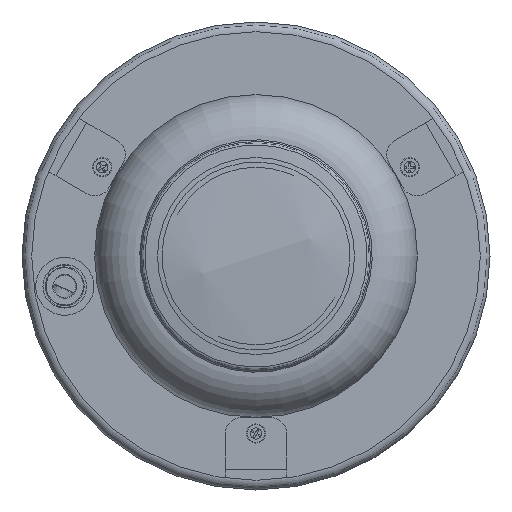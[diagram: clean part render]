
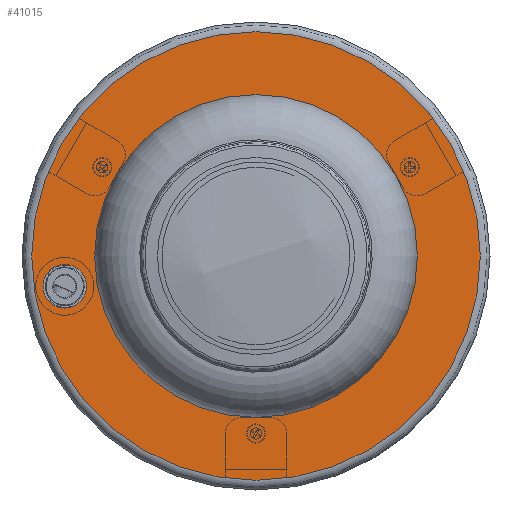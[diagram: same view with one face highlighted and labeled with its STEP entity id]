
A CAD part, front view. The second image highlights one B-rep face of the part: STEP entity #41015.
In plain terms, the highlighted planar face has unit normal (0, -1, 0).
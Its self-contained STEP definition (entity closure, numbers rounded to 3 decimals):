
#2706=FACE_BOUND('',#8053,.T.);
#2707=FACE_BOUND('',#8054,.T.);
#2708=FACE_BOUND('',#8055,.T.);
#2709=FACE_BOUND('',#8056,.T.);
#3661=PLANE('',#45880);
#5613=FACE_OUTER_BOUND('',#8052,.T.);
#8052=EDGE_LOOP('',(#35522));
#8053=EDGE_LOOP('',(#35523));
#8054=EDGE_LOOP('',(#35524));
#8055=EDGE_LOOP('',(#35525));
#8056=EDGE_LOOP('',(#35526));
#9943=CIRCLE('',#45863,1.485);
#9944=CIRCLE('',#45865,6.75);
#9946=CIRCLE('',#45868,2.5);
#9948=CIRCLE('',#45871,3.9);
#9953=CIRCLE('',#45878,69.5);
#20225=VERTEX_POINT('',#71059);
#20226=VERTEX_POINT('',#71063);
#20228=VERTEX_POINT('',#71069);
#20230=VERTEX_POINT('',#71075);
#20235=VERTEX_POINT('',#71089);
#25511=EDGE_CURVE('',#20225,#20225,#9943,.T.);
#25512=EDGE_CURVE('',#20226,#20226,#9944,.T.);
#25515=EDGE_CURVE('',#20228,#20228,#9946,.T.);
#25518=EDGE_CURVE('',#20230,#20230,#9948,.T.);
#25525=EDGE_CURVE('',#20235,#20235,#9953,.T.);
#35522=ORIENTED_EDGE('',*,*,#25525,.T.);
#35523=ORIENTED_EDGE('',*,*,#25511,.T.);
#35524=ORIENTED_EDGE('',*,*,#25512,.T.);
#35525=ORIENTED_EDGE('',*,*,#25515,.T.);
#35526=ORIENTED_EDGE('',*,*,#25518,.T.);
#41015=ADVANCED_FACE('',(#5613,#2706,#2707,#2708,#2709),#3661,.T.);
#45863=AXIS2_PLACEMENT_3D('',#71061,#55792,#55793);
#45865=AXIS2_PLACEMENT_3D('',#71064,#55796,#55797);
#45868=AXIS2_PLACEMENT_3D('',#71070,#55803,#55804);
#45871=AXIS2_PLACEMENT_3D('',#71076,#55810,#55811);
#45878=AXIS2_PLACEMENT_3D('',#71090,#55826,#55827);
#45880=AXIS2_PLACEMENT_3D('',#71092,#55830,#55831);
#55792=DIRECTION('center_axis',(0.,1.,0.));
#55793=DIRECTION('ref_axis',(1.,0.,0.));
#55796=DIRECTION('center_axis',(0.,1.,0.));
#55797=DIRECTION('ref_axis',(1.,0.,0.));
#55803=DIRECTION('center_axis',(0.,1.,0.));
#55804=DIRECTION('ref_axis',(1.,0.,0.));
#55810=DIRECTION('center_axis',(0.,1.,0.));
#55811=DIRECTION('ref_axis',(1.,0.,0.));
#55826=DIRECTION('center_axis',(0.,-1.,0.));
#55827=DIRECTION('ref_axis',(1.,0.,0.));
#55830=DIRECTION('center_axis',(0.,-1.,0.));
#55831=DIRECTION('ref_axis',(0.,0.,-1.));
#71059=CARTESIAN_POINT('',(33.589,0.,-20.25));
#71061=CARTESIAN_POINT('Origin',(35.074,0.,-20.25));
#71063=CARTESIAN_POINT('',(-62.765,0.,21.502));
#71064=CARTESIAN_POINT('Origin',(-56.015,0.,
21.502));
#71069=CARTESIAN_POINT('',(15.,0.,0.));
#71070=CARTESIAN_POINT('Origin',(17.5,0.,0.));
#71075=CARTESIAN_POINT('',(-3.9,0.,0.));
#71076=CARTESIAN_POINT('Origin',(0.,0.,0.));
#71089=CARTESIAN_POINT('',(0.,0.,69.5));
#71090=CARTESIAN_POINT('Origin',(0.,0.,
0.));
#71092=CARTESIAN_POINT('Origin',(0.,0.,0.));
